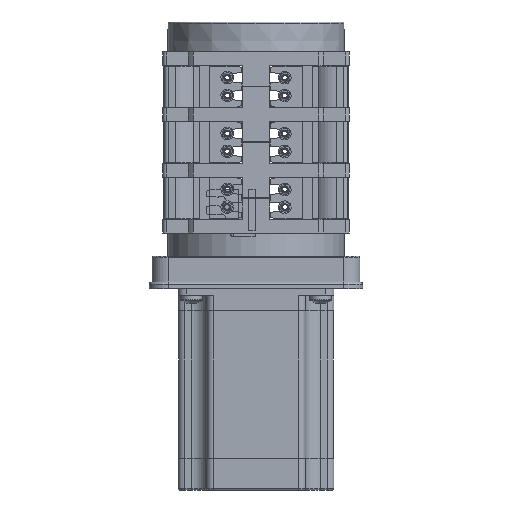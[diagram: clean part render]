
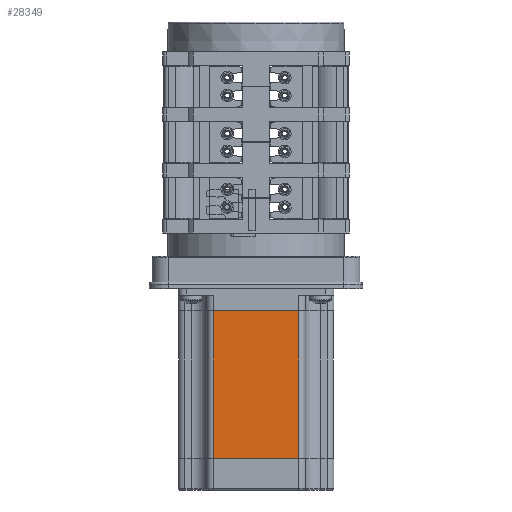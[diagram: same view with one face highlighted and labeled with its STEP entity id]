
A CAD part, front view. The second image highlights one B-rep face of the part: STEP entity #28349.
In plain terms, the highlighted planar face has unit normal (0, -1, 0).
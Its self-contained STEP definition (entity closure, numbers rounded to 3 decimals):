
#1203 = CARTESIAN_POINT ( 'NONE',  ( 15.57, -28.3, -41.1 ) ) ;
#3199 = VECTOR ( 'NONE', #22884, 1000. ) ;
#3684 = CARTESIAN_POINT ( 'NONE',  ( 15.57, -28.3, -95.1 ) ) ;
#5841 = ORIENTED_EDGE ( 'NONE', *, *, #21394, .T. ) ;
#6528 = LINE ( 'NONE', #42204, #51535 ) ;
#6991 = ORIENTED_EDGE ( 'NONE', *, *, #17220, .F. ) ;
#7324 = PLANE ( 'NONE',  #39187 ) ;
#7847 = VERTEX_POINT ( 'NONE', #3684 ) ;
#8367 = EDGE_CURVE ( 'NONE', #20401, #7847, #45531, .T. ) ;
#12620 = DIRECTION ( 'NONE',  ( -1., 0., 0. ) ) ;
#15864 = DIRECTION ( 'NONE',  ( 0., -1., 0. ) ) ;
#17220 = EDGE_CURVE ( 'NONE', #7847, #25025, #6528, .T. ) ;
#18902 = VECTOR ( 'NONE', #41804, 1000. ) ;
#20116 = DIRECTION ( 'NONE',  ( 0., 0., -1. ) ) ;
#20401 = VERTEX_POINT ( 'NONE', #1203 ) ;
#21014 = VERTEX_POINT ( 'NONE', #32522 ) ;
#21394 = EDGE_CURVE ( 'NONE', #21014, #25025, #45511, .T. ) ;
#22884 = DIRECTION ( 'NONE',  ( 0., 0., -1. ) ) ;
#24976 = EDGE_LOOP ( 'NONE', ( #37315, #5841, #6991, #54608 ) ) ;
#25025 = VERTEX_POINT ( 'NONE', #45981 ) ;
#28349 = ADVANCED_FACE ( 'NONE', ( #36355 ), #7324, .T. ) ;
#32522 = CARTESIAN_POINT ( 'NONE',  ( -15.57, -28.3, -41.1 ) ) ;
#36355 = FACE_OUTER_BOUND ( 'NONE', #24976, .T. ) ;
#37195 = EDGE_CURVE ( 'NONE', #20401, #21014, #42691, .T. ) ;
#37315 = ORIENTED_EDGE ( 'NONE', *, *, #37195, .T. ) ;
#39187 = AXIS2_PLACEMENT_3D ( 'NONE', #41161, #15864, #45425 ) ;
#41120 = CARTESIAN_POINT ( 'NONE',  ( 15.57, -28.3, 50.01 ) ) ;
#41161 = CARTESIAN_POINT ( 'NONE',  ( 15.57, -28.3, 50.01 ) ) ;
#41804 = DIRECTION ( 'NONE',  ( -1., 0., 0. ) ) ;
#42204 = CARTESIAN_POINT ( 'NONE',  ( 15.57, -28.3, -95.1 ) ) ;
#42691 = LINE ( 'NONE', #46031, #18902 ) ;
#44220 = VECTOR ( 'NONE', #20116, 1000. ) ;
#45425 = DIRECTION ( 'NONE',  ( 1., 0., 0. ) ) ;
#45511 = LINE ( 'NONE', #48140, #3199 ) ;
#45531 = LINE ( 'NONE', #41120, #44220 ) ;
#45981 = CARTESIAN_POINT ( 'NONE',  ( -15.57, -28.3, -95.1 ) ) ;
#46031 = CARTESIAN_POINT ( 'NONE',  ( 15.57, -28.3, -41.1 ) ) ;
#48140 = CARTESIAN_POINT ( 'NONE',  ( -15.57, -28.3, 50.01 ) ) ;
#51535 = VECTOR ( 'NONE', #12620, 1000. ) ;
#54608 = ORIENTED_EDGE ( 'NONE', *, *, #8367, .F. ) ;
